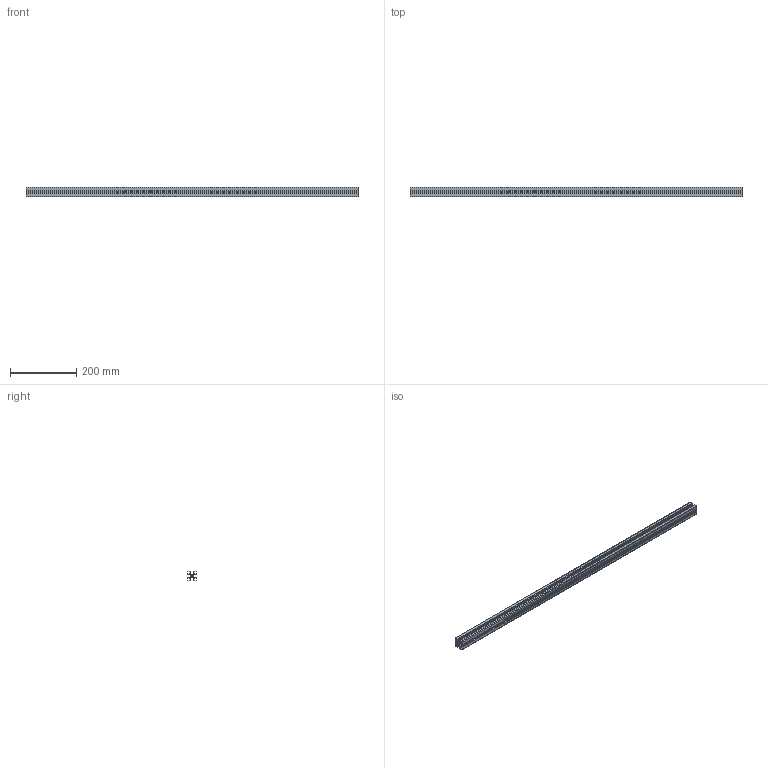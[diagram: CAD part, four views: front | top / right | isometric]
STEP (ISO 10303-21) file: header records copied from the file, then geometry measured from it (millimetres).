
FILE_DESCRIPTION (( 'STEP AP214' ), '1' );
FILE_NAME ('F33KY.STEP', '2018-12-10T04:01:07', ( 'sr-d11' ), ( 'MouseComputer PC' ), 'SwSTEP 2.0', 'SolidWorks 2014', '' );
FILE_SCHEMA (( 'AUTOMOTIVE_DESIGN' ));
Length unit declared in the file: millimetre
Products named in the file (1): F33KY
Bounding box: 1000 x 30 x 30 mm (x, y, z)
Volume: 273116.1 mm3; surface area: 352155.5 mm2
Topology: 1 solids, 1 shells, 178 faces, 528 edges, 352 vertices
Faces by surface type: cylinder 104, plane 74
Entity records: 7084 total; most frequent: DIRECTION 1094, CARTESIAN_POINT 1059, ORIENTED_EDGE 1056, EDGE_CURVE 528, AXIS2_PLACEMENT_3D 387, VERTEX_POINT 352, VECTOR 320, LINE 320
